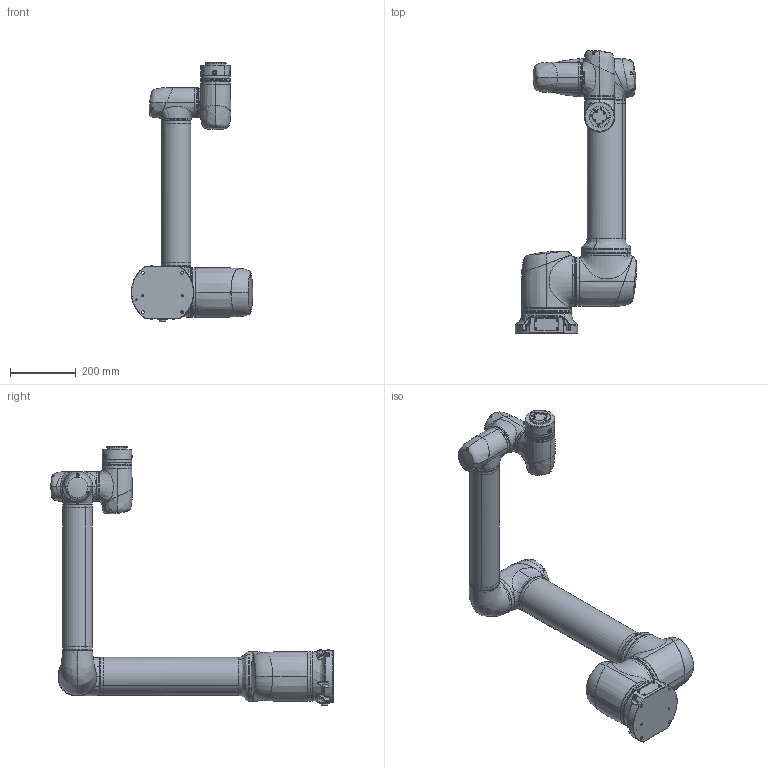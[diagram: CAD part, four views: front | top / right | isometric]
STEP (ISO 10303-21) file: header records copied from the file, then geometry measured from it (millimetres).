
FILE_DESCRIPTION (( 'STEP AP214' ), '1' );
FILE_NAME ('RC13-10掛极耀倰 3訬怓 2024.03.19.STEP', '2024-03-20T06:20:21', ( '' ), ( '' ), 'SwSTEP 2.0', 'SolidWorks 2021', '' );
FILE_SCHEMA (( 'AUTOMOTIVE_DESIGN' ));
Length unit declared in the file: millimetre
Products named in the file (9): CRP-RC13-10-06 湮旋 2023.10.13; RC13-10掛极耀倰 3訬怓 2024.03.19; CRP-RC13-10 藺傷楊擘 2023.09.14; CRM25耀郪; CRM17R耀郪 2024.03.18; CRP-RC13-10-07 苤旋 2023.10.13; CRM32R耀郪 2024.03.18; CRP-RC13-10 菁釱郪璃 2022.11.22; CRP-RC13-10-08 勂窒 2023.10.13
Assembly tree (11 placements, depth 2):
  RC13-10掛极耀倰 3訬怓 2024.03.19
    CRP-RC13-10 菁釱郪璃 2022.11.22
    CRM17R耀郪 2024.03.18  x3
    CRM32R耀郪 2024.03.18  x2
    CRP-RC13-10-06 湮旋 2023.10.13
    CRP-RC13-10-07 苤旋 2023.10.13
    CRP-RC13-10-08 勂窒 2023.10.13
    CRM25耀郪
    CRP-RC13-10 藺傷楊擘 2023.09.14
Bounding box: 369.49 x 860.39 x 786.2 mm (x, y, z)
Volume: 22959944.2 mm3; surface area: 1125380.7 mm2
Topology: 11 solids, 11 shells, 3199 faces, 7498 edges, 4715 vertices
Faces by surface type: plane 1353, cylinder 1109, torus 238, cone 231, bspline 218, sphere 50
Entity records: 110529 total; most frequent: CARTESIAN_POINT 58476, DIRECTION 7779, ORIENTED_EDGE 7610, EDGE_CURVE 3805, AXIS2_PLACEMENT_3D 3067, VERTEX_POINT 2399, EDGE_LOOP 1856, LINE 1645
